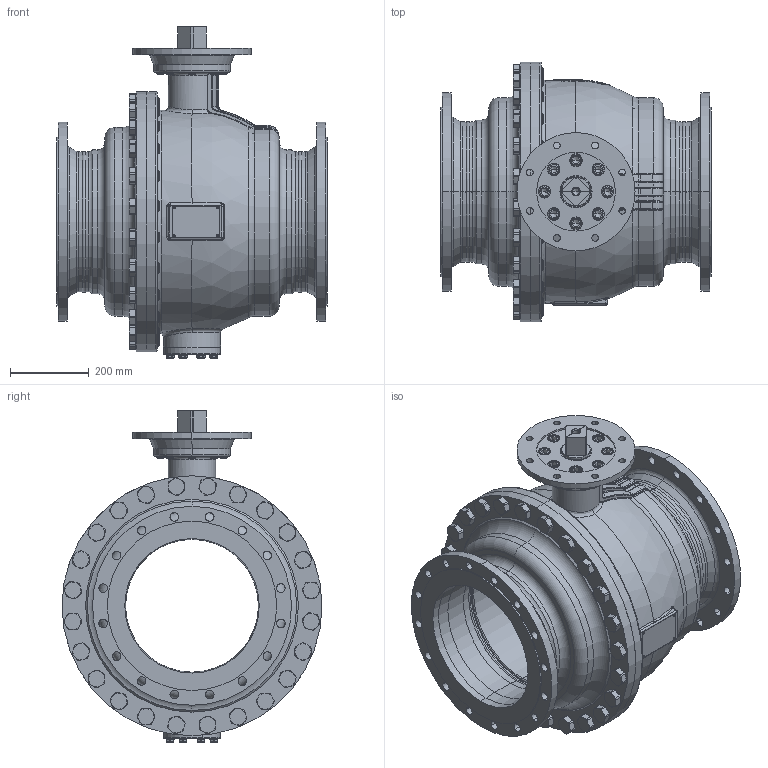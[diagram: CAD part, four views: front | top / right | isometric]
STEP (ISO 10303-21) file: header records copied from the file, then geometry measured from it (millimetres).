
FILE_DESCRIPTION((''),'2;1');
FILE_NAME('KHI-F_350_PN010-F25-4_SW0001','2026-02-05T15:28:24',('fischerkl'),('KLINGER'),'CREO PARAMETRIC BY PTC INC, 2023014','CREO PARAMETRIC BY PTC INC, 2023014','');
FILE_SCHEMA(('CONFIG_CONTROL_DESIGN'));
Products named in the file (1): KHI-F_350_PN010-F25-4_SW0001
Bounding box: 686 x 660 x 842.8 mm (x, y, z)
Volume: 41129969.8 mm3; surface area: 5784681.4 mm2
Topology: 1 solids, 4 shells, 3389 faces, 8552 edges, 5337 vertices
Faces by surface type: plane 1732, cylinder 789, cone 448, torus 291, bspline 99, sphere 30
Entity records: 143019 total; most frequent: CARTESIAN_POINT 62241, ORIENTED_EDGE 17052, DIRECTION 16733, EDGE_CURVE 8526, AXIS2_PLACEMENT_3D 6378, VERTEX_POINT 5337, VECTOR 3977, LINE 3977
